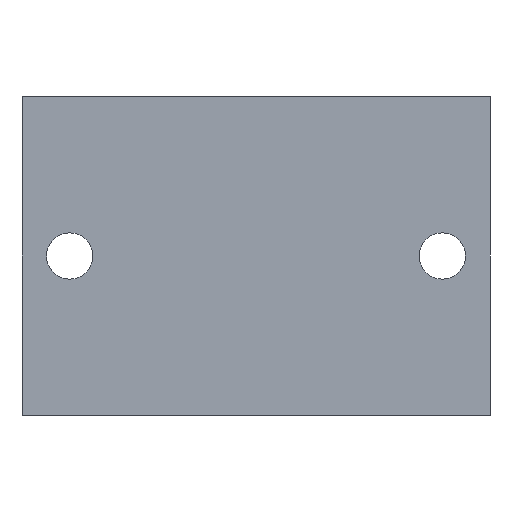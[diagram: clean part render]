
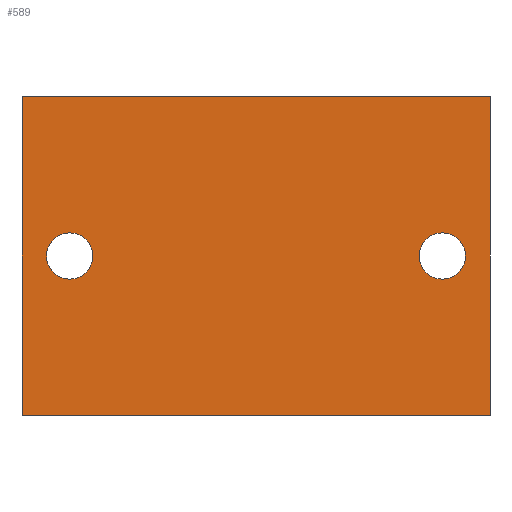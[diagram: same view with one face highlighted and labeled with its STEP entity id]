
A CAD part, front view. The second image highlights one B-rep face of the part: STEP entity #589.
In plain terms, the highlighted planar face has unit normal (0, -1, 0).
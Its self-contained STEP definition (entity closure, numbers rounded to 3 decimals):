
#14 = EDGE_CURVE ( 'NONE', #955, #1190, #1121, .T. ) ;
#66 = VERTEX_POINT ( 'NONE', #435 ) ;
#79 = DIRECTION ( 'NONE',  ( 0., 0., -1. ) ) ;
#122 = VERTEX_POINT ( 'NONE', #348 ) ;
#138 = ORIENTED_EDGE ( 'NONE', *, *, #14, .F. ) ;
#141 = DIRECTION ( 'NONE',  ( 0., -1., 0. ) ) ;
#176 = LINE ( 'NONE', #628, #936 ) ;
#178 = FACE_OUTER_BOUND ( 'NONE', #440, .T. ) ;
#183 = AXIS2_PLACEMENT_3D ( 'NONE', #631, #856, #1105 ) ;
#222 = EDGE_CURVE ( 'NONE', #293, #345, #786, .T. ) ;
#230 = VECTOR ( 'NONE', #79, 1000. ) ;
#276 = EDGE_CURVE ( 'NONE', #66, #934, #1418, .T. ) ;
#282 = CARTESIAN_POINT ( 'NONE',  ( -51.5, -46., -35. ) ) ;
#293 = VERTEX_POINT ( 'NONE', #596 ) ;
#345 = VERTEX_POINT ( 'NONE', #414 ) ;
#348 = CARTESIAN_POINT ( 'NONE',  ( 41., -46., -5.1 ) ) ;
#362 = EDGE_CURVE ( 'NONE', #122, #969, #1442, .T. ) ;
#407 = DIRECTION ( 'NONE',  ( 1., 0., 0. ) ) ;
#408 = CARTESIAN_POINT ( 'NONE',  ( -51.5, -46., 35. ) ) ;
#414 = CARTESIAN_POINT ( 'NONE',  ( -41., -46., 5.1 ) ) ;
#424 = CARTESIAN_POINT ( 'NONE',  ( 51.5, -46., -35. ) ) ;
#432 = AXIS2_PLACEMENT_3D ( 'NONE', #1221, #637, #1341 ) ;
#435 = CARTESIAN_POINT ( 'NONE',  ( -51.5, -46., -35. ) ) ;
#440 = EDGE_LOOP ( 'NONE', ( #753, #1035, #138, #1488 ) ) ;
#446 = CARTESIAN_POINT ( 'NONE',  ( -51.5, -46., 35. ) ) ;
#450 = AXIS2_PLACEMENT_3D ( 'NONE', #1313, #141, #1443 ) ;
#499 = PLANE ( 'NONE',  #432 ) ;
#513 = FACE_BOUND ( 'NONE', #1114, .T. ) ;
#570 = AXIS2_PLACEMENT_3D ( 'NONE', #601, #1168, #925 ) ;
#589 = ADVANCED_FACE ( 'NONE', ( #988, #513, #178 ), #499, .F. ) ;
#596 = CARTESIAN_POINT ( 'NONE',  ( -41., -46., -5.1 ) ) ;
#601 = CARTESIAN_POINT ( 'NONE',  ( -41., -46., 0. ) ) ;
#628 = CARTESIAN_POINT ( 'NONE',  ( 51.5, -46., 35. ) ) ;
#631 = CARTESIAN_POINT ( 'NONE',  ( 41., -46., 0. ) ) ;
#637 = DIRECTION ( 'NONE',  ( 0., 1., 0. ) ) ;
#641 = CARTESIAN_POINT ( 'NONE',  ( 41., -46., 5.1 ) ) ;
#645 = EDGE_CURVE ( 'NONE', #969, #122, #1159, .T. ) ;
#707 = EDGE_CURVE ( 'NONE', #955, #66, #1143, .T. ) ;
#745 = DIRECTION ( 'NONE',  ( 1., 0., 0. ) ) ;
#753 = ORIENTED_EDGE ( 'NONE', *, *, #276, .T. ) ;
#786 = CIRCLE ( 'NONE', #450, 5.1 ) ;
#832 = VECTOR ( 'NONE', #407, 1000. ) ;
#845 = DIRECTION ( 'NONE',  ( 0., 0., -1. ) ) ;
#856 = DIRECTION ( 'NONE',  ( 0., -1., 0. ) ) ;
#871 = ORIENTED_EDGE ( 'NONE', *, *, #1122, .F. ) ;
#925 = DIRECTION ( 'NONE',  ( 0., 0., -1. ) ) ;
#934 = VERTEX_POINT ( 'NONE', #424 ) ;
#936 = VECTOR ( 'NONE', #845, 1000. ) ;
#955 = VERTEX_POINT ( 'NONE', #408 ) ;
#969 = VERTEX_POINT ( 'NONE', #641 ) ;
#988 = FACE_BOUND ( 'NONE', #1393, .T. ) ;
#1035 = ORIENTED_EDGE ( 'NONE', *, *, #1327, .F. ) ;
#1053 = AXIS2_PLACEMENT_3D ( 'NONE', #1234, #1366, #1478 ) ;
#1057 = ORIENTED_EDGE ( 'NONE', *, *, #645, .F. ) ;
#1065 = VECTOR ( 'NONE', #745, 1000. ) ;
#1105 = DIRECTION ( 'NONE',  ( 0., 0., -1. ) ) ;
#1114 = EDGE_LOOP ( 'NONE', ( #1204, #1057 ) ) ;
#1121 = LINE ( 'NONE', #1338, #1065 ) ;
#1122 = EDGE_CURVE ( 'NONE', #345, #293, #1471, .T. ) ;
#1143 = LINE ( 'NONE', #446, #230 ) ;
#1159 = CIRCLE ( 'NONE', #183, 5.1 ) ;
#1168 = DIRECTION ( 'NONE',  ( 0., -1., 0. ) ) ;
#1190 = VERTEX_POINT ( 'NONE', #1409 ) ;
#1204 = ORIENTED_EDGE ( 'NONE', *, *, #362, .F. ) ;
#1221 = CARTESIAN_POINT ( 'NONE',  ( -51.5, -46., 35. ) ) ;
#1223 = ORIENTED_EDGE ( 'NONE', *, *, #222, .F. ) ;
#1234 = CARTESIAN_POINT ( 'NONE',  ( 41., -46., 0. ) ) ;
#1313 = CARTESIAN_POINT ( 'NONE',  ( -41., -46., 0. ) ) ;
#1327 = EDGE_CURVE ( 'NONE', #1190, #934, #176, .T. ) ;
#1338 = CARTESIAN_POINT ( 'NONE',  ( -51.5, -46., 35. ) ) ;
#1341 = DIRECTION ( 'NONE',  ( 0., 0., 1. ) ) ;
#1366 = DIRECTION ( 'NONE',  ( 0., -1., 0. ) ) ;
#1393 = EDGE_LOOP ( 'NONE', ( #1223, #871 ) ) ;
#1409 = CARTESIAN_POINT ( 'NONE',  ( 51.5, -46., 35. ) ) ;
#1418 = LINE ( 'NONE', #282, #832 ) ;
#1442 = CIRCLE ( 'NONE', #1053, 5.1 ) ;
#1443 = DIRECTION ( 'NONE',  ( 0., 0., -1. ) ) ;
#1471 = CIRCLE ( 'NONE', #570, 5.1 ) ;
#1478 = DIRECTION ( 'NONE',  ( 0., 0., -1. ) ) ;
#1488 = ORIENTED_EDGE ( 'NONE', *, *, #707, .T. ) ;
